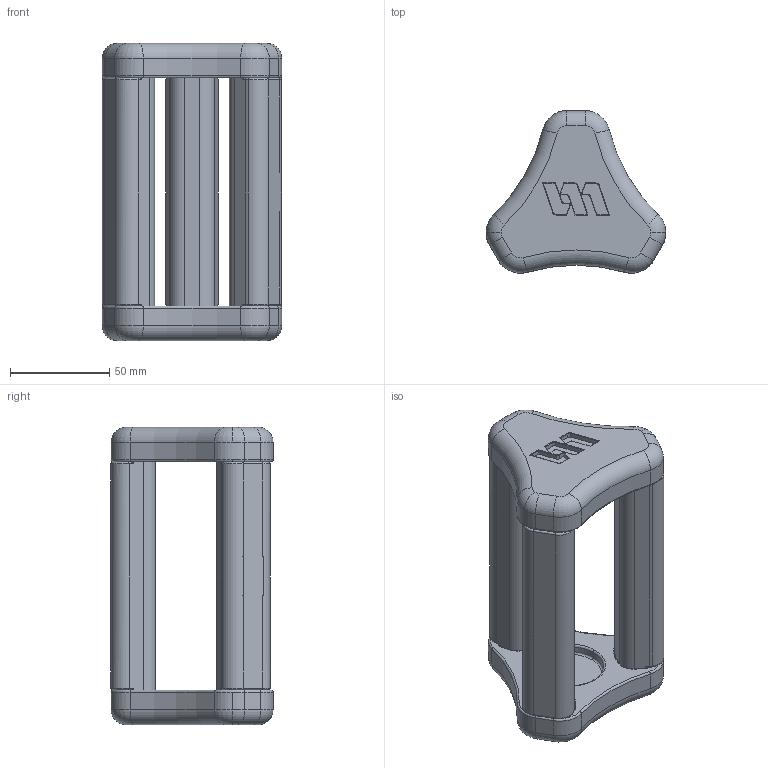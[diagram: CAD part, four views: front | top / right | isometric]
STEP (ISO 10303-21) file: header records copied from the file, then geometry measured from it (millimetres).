
FILE_DESCRIPTION (( 'STEP AP203' ), '1' );
FILE_NAME ('pressup_vbar.STEP', '2026-02-26T11:34:57', ( '' ), ( '' ), 'SwSTEP 2.0', 'SolidWorks 2025', '' );
FILE_SCHEMA (( 'CONFIG_CONTROL_DESIGN' ));
Length unit declared in the file: millimetre
Products named in the file (3): end_cap; handle; pressup_vbar
Assembly tree (5 placements, depth 2):
  pressup_vbar
    end_cap  x2
    handle  x3
Bounding box: 90.47 x 81.79 x 150 mm (x, y, z)
Volume: 325699.2 mm3; surface area: 71346.1 mm2
Topology: 5 solids, 5 shells, 606 faces, 1441 edges, 845 vertices
Faces by surface type: cylinder 263, torus 182, plane 143, sphere 12, bspline 6
Entity records: 8262 total; most frequent: DIRECTION 1523, CARTESIAN_POINT 1414, ORIENTED_EDGE 1290, EDGE_CURVE 645, AXIS2_PLACEMENT_3D 625, VERTEX_POINT 380, CIRCLE 344, EDGE_LOOP 281
